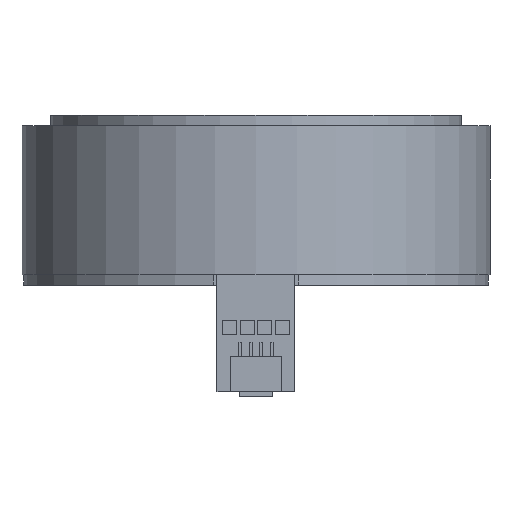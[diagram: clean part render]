
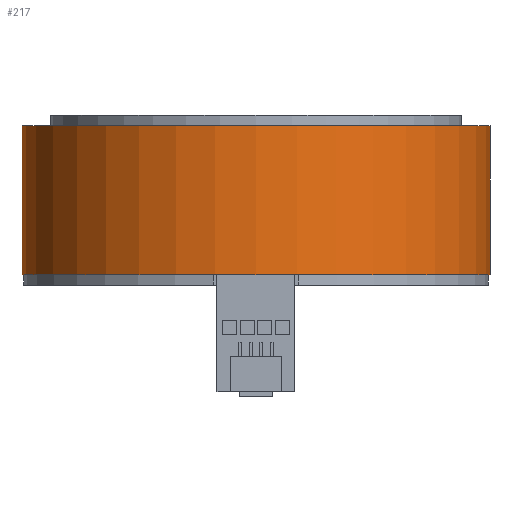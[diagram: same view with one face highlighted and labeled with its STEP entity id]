
A CAD part, left-side view. The second image highlights one B-rep face of the part: STEP entity #217.
In plain terms, the highlighted cylindrical face has radius 33 mm (diameter 66 mm), a full revolution.
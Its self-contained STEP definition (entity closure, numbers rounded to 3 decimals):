
#36=CYLINDRICAL_SURFACE('',#2365,33.);
#66=CIRCLE('',#2361,33.);
#67=CIRCLE('',#2363,33.);
#217=ADVANCED_FACE('',(#485,#486),#36,.T.);
#485=FACE_BOUND('',#564,.T.);
#486=FACE_BOUND('',#565,.T.);
#564=EDGE_LOOP('',(#859));
#565=EDGE_LOOP('',(#860));
#859=ORIENTED_EDGE('',*,*,#1646,.F.);
#860=ORIENTED_EDGE('',*,*,#1647,.T.);
#1424=VERTEX_POINT('',#3381);
#1425=VERTEX_POINT('',#3384);
#1646=EDGE_CURVE('',#1424,#1424,#66,.T.);
#1647=EDGE_CURVE('',#1425,#1425,#67,.T.);
#2361=AXIS2_PLACEMENT_3D('',#3380,#2677,#2678);
#2363=AXIS2_PLACEMENT_3D('',#3383,#2681,#2682);
#2365=AXIS2_PLACEMENT_3D('',#3386,#2685,#2686);
#2677=DIRECTION('',(0.,0.,-1.));
#2678=DIRECTION('',(-1.,0.,0.));
#2681=DIRECTION('',(0.,0.,-1.));
#2682=DIRECTION('',(-1.,0.,0.));
#2685=DIRECTION('',(0.,0.,-1.));
#2686=DIRECTION('',(-1.,0.,0.));
#3380=CARTESIAN_POINT('',(0.,0.,-22.5));
#3381=CARTESIAN_POINT('',(-33.,0.,-22.5));
#3383=CARTESIAN_POINT('',(0.,0.,-1.5));
#3384=CARTESIAN_POINT('',(-33.,0.,-1.5));
#3386=CARTESIAN_POINT('',(0.,0.,-1.5));
